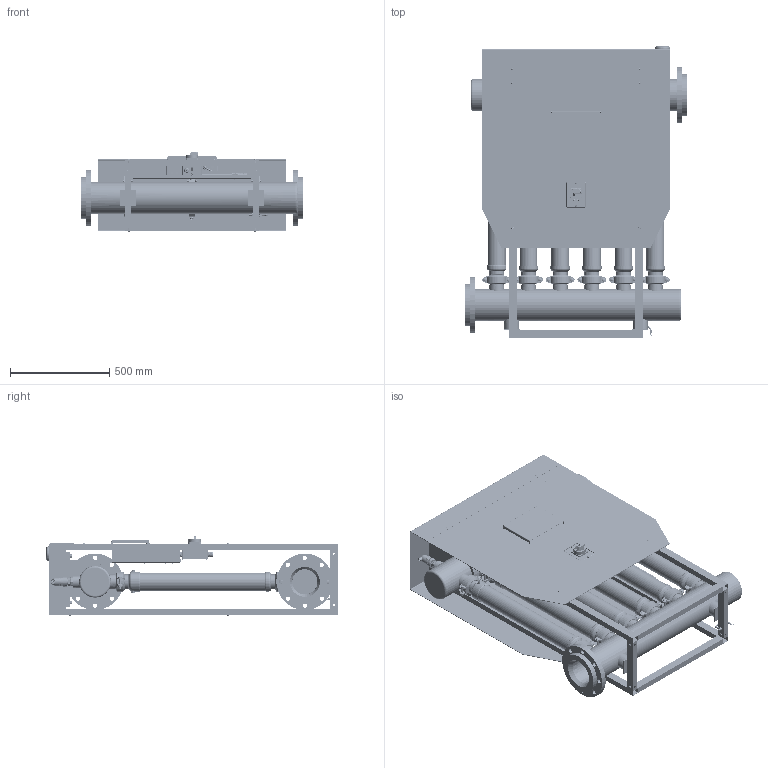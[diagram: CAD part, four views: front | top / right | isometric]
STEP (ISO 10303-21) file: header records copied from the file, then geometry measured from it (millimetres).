
FILE_DESCRIPTION(/* description */ (''),/* implementation_level */ '2;1');
FILE_NAME(/* name */ 'H-A Pro 50-60 M_3D_V1.0.stp',/* time_stamp */ '2024-11-04T12:11:03+01:00',/* author */ ('MassimoMaselli'),/* organization */ (''),/* preprocessor_version */ 'ST-DEVELOPER v20',/* originating_system */ 'Autodesk Inventor 2024',/* authorisation */ '');
FILE_SCHEMA (('AUTOMOTIVE_DESIGN { 1 0 10303 214 3 1 1 }'));
Products named in the file (1): H-A Pro 50-60 M_3D_V1.0
Bounding box: 1122 x 1470 x 398.8 mm (x, y, z)
Volume: 40284326.6 mm3; surface area: 16480101.8 mm2
Topology: 202 solids, 221 shells, 13857 faces, 36099 edges, 23346 vertices
Faces by surface type: plane 6721, cylinder 3278, bspline 2264, cone 998, torus 494, sphere 102
Full cylindrical faces by diameter (mm): 0.6 x32, 0.65 x32, 0.7 x32, 1 x36, 1.1 x32, 1.17 x32, 1.24 x32, 1.567 x15, 1.92 x4, 2 x1, 2.8 x3, 3 x1, 3.2 x6, 3.242 x16, 3.251 x4, 3.3 x9, 3.5 x6, 3.6 x3, 3.8 x3, 4 x12, 4.134 x12, 4.2 x2, 4.25 x4, 4.3 x17, 4.394 x2, 4.6 x12, 4.826 x4, 5 x13, 5.2 x10, 6 x10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
Entity records: 632206 total; most frequent: CARTESIAN_POINT 284676, ORIENTED_EDGE 71874, DIRECTION 65151, EDGE_CURVE 35950, VERTEX_POINT 23343, AXIS2_PLACEMENT_3D 23088, LINE 18975, VECTOR 18975
